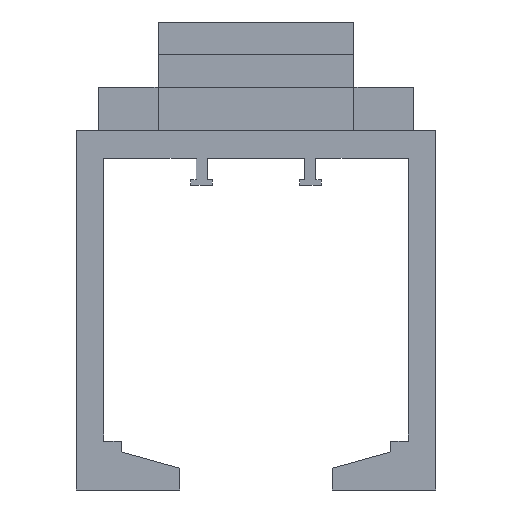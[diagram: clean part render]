
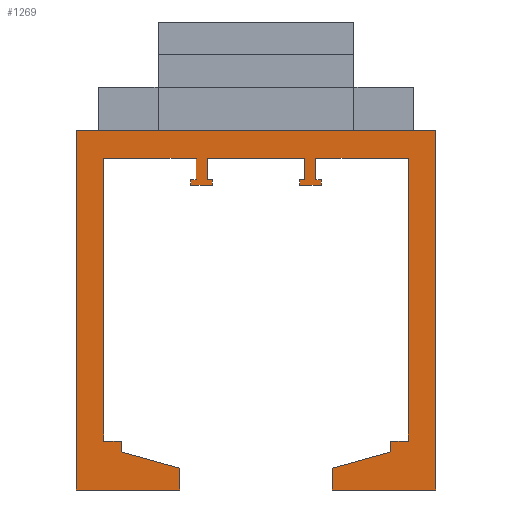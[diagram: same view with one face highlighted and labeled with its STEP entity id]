
A CAD part, left-side view. The second image highlights one B-rep face of the part: STEP entity #1269.
In plain terms, the highlighted planar face has unit normal (-1, 0, 0).
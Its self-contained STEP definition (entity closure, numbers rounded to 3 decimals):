
#1269=ADVANCED_FACE('',(#2284),#2285,.F.);
#2284=FACE_OUTER_BOUND('',#3603,.T.);
#2285=PLANE('',#3604);
#3603=EDGE_LOOP('',(#5079,#5080,#5081,#5082,#5083,#5084,#5085,#5086,#5087,#5088,#5089,#5090,#5091,#5092,#5093,#5094,#5095,#5096,#5097,#5098,#5099,#5100,#5101,#5102,#5103,#5104,#5105,#5106,#5107,#5108,#5109,#5110,#5111,#5112,#5113,#5114));
#3604=AXIS2_PLACEMENT_3D('',#5115,#5116,#5117);
#5079=ORIENTED_EDGE('',*,*,#6402,.T.);
#5080=ORIENTED_EDGE('',*,*,#6418,.T.);
#5081=ORIENTED_EDGE('',*,*,#6419,.T.);
#5082=ORIENTED_EDGE('',*,*,#6410,.T.);
#5083=ORIENTED_EDGE('',*,*,#6157,.F.);
#5084=ORIENTED_EDGE('',*,*,#6204,.T.);
#5085=ORIENTED_EDGE('',*,*,#6181,.T.);
#5086=ORIENTED_EDGE('',*,*,#6186,.F.);
#5087=ORIENTED_EDGE('',*,*,#6175,.F.);
#5088=ORIENTED_EDGE('',*,*,#6098,.T.);
#5089=ORIENTED_EDGE('',*,*,#6420,.T.);
#5090=ORIENTED_EDGE('',*,*,#6421,.T.);
#5091=ORIENTED_EDGE('',*,*,#6422,.T.);
#5092=ORIENTED_EDGE('',*,*,#6423,.T.);
#5093=ORIENTED_EDGE('',*,*,#6424,.T.);
#5094=ORIENTED_EDGE('',*,*,#6425,.T.);
#5095=ORIENTED_EDGE('',*,*,#6426,.F.);
#5096=ORIENTED_EDGE('',*,*,#6427,.T.);
#5097=ORIENTED_EDGE('',*,*,#6428,.T.);
#5098=ORIENTED_EDGE('',*,*,#6429,.T.);
#5099=ORIENTED_EDGE('',*,*,#6430,.T.);
#5100=ORIENTED_EDGE('',*,*,#6431,.T.);
#5101=ORIENTED_EDGE('',*,*,#6432,.T.);
#5102=ORIENTED_EDGE('',*,*,#6433,.T.);
#5103=ORIENTED_EDGE('',*,*,#6434,.F.);
#5104=ORIENTED_EDGE('',*,*,#6413,.F.);
#5105=ORIENTED_EDGE('',*,*,#6435,.F.);
#5106=ORIENTED_EDGE('',*,*,#6436,.T.);
#5107=ORIENTED_EDGE('',*,*,#6397,.T.);
#5108=ORIENTED_EDGE('',*,*,#6437,.F.);
#5109=ORIENTED_EDGE('',*,*,#6438,.F.);
#5110=ORIENTED_EDGE('',*,*,#6439,.F.);
#5111=ORIENTED_EDGE('',*,*,#6440,.T.);
#5112=ORIENTED_EDGE('',*,*,#6441,.T.);
#5113=ORIENTED_EDGE('',*,*,#6442,.T.);
#5114=ORIENTED_EDGE('',*,*,#6405,.T.);
#5115=CARTESIAN_POINT('',(0.0,5.0,-3.5));
#5116=DIRECTION('',(1.0,0.0,0.0));
#5117=DIRECTION('',(0.0,0.0,-1.0));
#6098=EDGE_CURVE('',#7056,#7054,#7057,.T.);
#6157=EDGE_CURVE('',#7144,#7146,#7147,.T.);
#6175=EDGE_CURVE('',#7056,#7174,#7175,.T.);
#6181=EDGE_CURVE('',#7180,#7182,#7184,.T.);
#6186=EDGE_CURVE('',#7174,#7182,#7191,.T.);
#6204=EDGE_CURVE('',#7144,#7180,#7213,.T.);
#6397=EDGE_CURVE('',#7497,#7495,#7498,.T.);
#6402=EDGE_CURVE('',#7506,#7504,#7507,.T.);
#6405=EDGE_CURVE('',#7510,#7506,#7511,.T.);
#6410=EDGE_CURVE('',#7518,#7146,#7519,.T.);
#6413=EDGE_CURVE('',#7522,#7523,#7524,.T.);
#6418=EDGE_CURVE('',#7504,#7531,#7532,.T.);
#6419=EDGE_CURVE('',#7531,#7518,#7533,.T.);
#6420=EDGE_CURVE('',#7054,#7534,#7535,.T.);
#6421=EDGE_CURVE('',#7534,#7536,#7537,.T.);
#6422=EDGE_CURVE('',#7536,#7538,#7539,.T.);
#6423=EDGE_CURVE('',#7538,#7540,#7541,.T.);
#6424=EDGE_CURVE('',#7540,#7542,#7543,.T.);
#6425=EDGE_CURVE('',#7542,#7544,#7545,.T.);
#6426=EDGE_CURVE('',#7546,#7544,#7547,.T.);
#6427=EDGE_CURVE('',#7546,#7548,#7549,.T.);
#6428=EDGE_CURVE('',#7548,#7550,#7551,.T.);
#6429=EDGE_CURVE('',#7550,#7552,#7553,.T.);
#6430=EDGE_CURVE('',#7552,#7554,#7555,.T.);
#6431=EDGE_CURVE('',#7554,#7556,#7557,.T.);
#6432=EDGE_CURVE('',#7556,#7558,#7559,.T.);
#6433=EDGE_CURVE('',#7558,#7560,#7561,.T.);
#6434=EDGE_CURVE('',#7523,#7560,#7562,.T.);
#6435=EDGE_CURVE('',#7563,#7522,#7564,.T.);
#6436=EDGE_CURVE('',#7563,#7497,#7565,.T.);
#6437=EDGE_CURVE('',#7566,#7495,#7567,.T.);
#6438=EDGE_CURVE('',#7568,#7566,#7569,.T.);
#6439=EDGE_CURVE('',#7570,#7568,#7571,.T.);
#6440=EDGE_CURVE('',#7570,#7572,#7573,.T.);
#6441=EDGE_CURVE('',#7572,#7574,#7575,.T.);
#6442=EDGE_CURVE('',#7574,#7510,#7576,.T.);
#7054=VERTEX_POINT('',#7988);
#7056=VERTEX_POINT('',#7991);
#7057=LINE('',#7992,#7993);
#7144=VERTEX_POINT('',#8105);
#7146=VERTEX_POINT('',#8108);
#7147=LINE('',#8109,#8110);
#7174=VERTEX_POINT('',#8145);
#7175=LINE('',#8146,#8147);
#7180=VERTEX_POINT('',#8153);
#7182=VERTEX_POINT('',#8155);
#7184=LINE('',#8157,#8158);
#7191=LINE('',#8166,#8167);
#7213=LINE('',#8195,#8196);
#7495=VERTEX_POINT('',#8615);
#7497=VERTEX_POINT('',#8618);
#7498=LINE('',#8619,#8620);
#7504=VERTEX_POINT('',#8628);
#7506=VERTEX_POINT('',#8631);
#7507=LINE('',#8632,#8633);
#7510=VERTEX_POINT('',#8637);
#7511=LINE('',#8638,#8639);
#7518=VERTEX_POINT('',#8649);
#7519=LINE('',#8650,#8651);
#7522=VERTEX_POINT('',#8655);
#7523=VERTEX_POINT('',#8656);
#7524=LINE('',#8657,#8658);
#7531=VERTEX_POINT('',#8668);
#7532=LINE('',#8669,#8670);
#7533=LINE('',#8671,#8672);
#7534=VERTEX_POINT('',#8673);
#7535=LINE('',#8674,#8675);
#7536=VERTEX_POINT('',#8676);
#7537=LINE('',#8677,#8678);
#7538=VERTEX_POINT('',#8679);
#7539=LINE('',#8680,#8681);
#7540=VERTEX_POINT('',#8682);
#7541=LINE('',#8683,#8684);
#7542=VERTEX_POINT('',#8685);
#7543=LINE('',#8686,#8687);
#7544=VERTEX_POINT('',#8688);
#7545=LINE('',#8689,#8690);
#7546=VERTEX_POINT('',#8691);
#7547=LINE('',#8692,#8693);
#7548=VERTEX_POINT('',#8694);
#7549=LINE('',#8695,#8696);
#7550=VERTEX_POINT('',#8697);
#7551=LINE('',#8698,#8699);
#7552=VERTEX_POINT('',#8700);
#7553=LINE('',#8701,#8702);
#7554=VERTEX_POINT('',#8703);
#7555=LINE('',#8704,#8705);
#7556=VERTEX_POINT('',#8706);
#7557=LINE('',#8707,#8708);
#7558=VERTEX_POINT('',#8709);
#7559=LINE('',#8710,#8711);
#7560=VERTEX_POINT('',#8712);
#7561=LINE('',#8713,#8714);
#7562=LINE('',#8715,#8716);
#7563=VERTEX_POINT('',#8717);
#7564=LINE('',#8718,#8719);
#7565=LINE('',#8720,#8721);
#7566=VERTEX_POINT('',#8722);
#7567=LINE('',#8723,#8724);
#7568=VERTEX_POINT('',#8725);
#7569=LINE('',#8726,#8727);
#7570=VERTEX_POINT('',#8728);
#7571=LINE('',#8729,#8730);
#7572=VERTEX_POINT('',#8731);
#7573=LINE('',#8732,#8733);
#7574=VERTEX_POINT('',#8734);
#7575=LINE('',#8735,#8736);
#7576=LINE('',#8737,#8738);
#7988=CARTESIAN_POINT('',(0.0,5.5,-4.5));
#7991=CARTESIAN_POINT('',(0.,5.5,-2.505));
#7992=CARTESIAN_POINT('',(0.0,5.5,-2.5));
#7993=VECTOR('',#9005,1.0);
#8105=CARTESIAN_POINT('',(0.0,5.5,-2.5));
#8108=CARTESIAN_POINT('',(0.0,14.0,-2.5));
#8109=CARTESIAN_POINT('',(0.0,-14.0,-2.5));
#8110=VECTOR('',#9086,1.0);
#8145=CARTESIAN_POINT('',(0.,5.505,-2.505));
#8146=CARTESIAN_POINT('',(0.,5.5,-2.505));
#8147=VECTOR('',#9107,1.0);
#8153=CARTESIAN_POINT('',(0.0,5.5,-2.503));
#8155=CARTESIAN_POINT('',(0.0,5.505,-2.503));
#8157=CARTESIAN_POINT('',(0.0,5.5,-2.503));
#8158=VECTOR('',#9118,1.0);
#8166=CARTESIAN_POINT('',(0.0,5.505,-2.505));
#8167=VECTOR('',#9126,1.0);
#8195=CARTESIAN_POINT('',(0.0,5.5,-2.5));
#8196=VECTOR('',#9145,1.0);
#8615=CARTESIAN_POINT('',(0.0,-7.0,-31.0));
#8618=CARTESIAN_POINT('',(0.0,-12.375,-29.5));
#8619=CARTESIAN_POINT('',(0.0,-4.993,-31.56));
#8620=VECTOR('',#9284,1.0);
#8628=CARTESIAN_POINT('',(0.0,12.375,-29.5));
#8631=CARTESIAN_POINT('',(0.0,7.0,-31.0));
#8632=CARTESIAN_POINT('',(0.0,12.32,-29.515));
#8633=VECTOR('',#9288,1.0);
#8637=CARTESIAN_POINT('',(0.0,7.0,-33.0));
#8638=CARTESIAN_POINT('',(0.0,7.0,-33.0));
#8639=VECTOR('',#9290,1.0);
#8649=CARTESIAN_POINT('',(0.0,14.0,-28.5));
#8650=CARTESIAN_POINT('',(0.0,14.0,-28.5));
#8651=VECTOR('',#9294,1.0);
#8655=CARTESIAN_POINT('',(0.0,-14.0,-28.5));
#8656=CARTESIAN_POINT('',(0.0,-14.0,-2.5));
#8657=CARTESIAN_POINT('',(0.0,-14.0,-28.5));
#8658=VECTOR('',#9296,1.0);
#8668=CARTESIAN_POINT('',(0.0,12.375,-28.5));
#8669=CARTESIAN_POINT('',(0.0,12.375,-29.26));
#8670=VECTOR('',#9300,1.0);
#8671=CARTESIAN_POINT('',(0.0,12.375,-28.5));
#8672=VECTOR('',#9301,1.0);
#8673=CARTESIAN_POINT('',(0.0,6.0,-4.5));
#8674=CARTESIAN_POINT('',(0.0,4.0,-4.5));
#8675=VECTOR('',#9302,1.0);
#8676=CARTESIAN_POINT('',(0.0,6.0,-5.0));
#8677=CARTESIAN_POINT('',(0.0,6.0,-4.5));
#8678=VECTOR('',#9303,1.0);
#8679=CARTESIAN_POINT('',(0.0,4.0,-5.0));
#8680=CARTESIAN_POINT('',(0.0,6.0,-5.0));
#8681=VECTOR('',#9304,1.0);
#8682=CARTESIAN_POINT('',(0.0,4.0,-4.5));
#8683=CARTESIAN_POINT('',(0.0,4.0,-5.0));
#8684=VECTOR('',#9305,1.0);
#8685=CARTESIAN_POINT('',(0.0,4.5,-4.5));
#8686=CARTESIAN_POINT('',(0.0,4.0,-4.5));
#8687=VECTOR('',#9306,1.0);
#8688=CARTESIAN_POINT('',(0.0,4.5,-2.5));
#8689=CARTESIAN_POINT('',(0.0,4.5,-4.5));
#8690=VECTOR('',#9307,1.0);
#8691=CARTESIAN_POINT('',(0.0,-4.5,-2.5));
#8692=CARTESIAN_POINT('',(0.0,-14.0,-2.5));
#8693=VECTOR('',#9308,1.0);
#8694=CARTESIAN_POINT('',(0.0,-4.5,-4.5));
#8695=CARTESIAN_POINT('',(0.0,-4.5,-2.5));
#8696=VECTOR('',#9309,1.0);
#8697=CARTESIAN_POINT('',(0.0,-4.0,-4.5));
#8698=CARTESIAN_POINT('',(0.0,-6.0,-4.5));
#8699=VECTOR('',#9310,1.0);
#8700=CARTESIAN_POINT('',(0.0,-4.0,-5.0));
#8701=CARTESIAN_POINT('',(0.0,-4.0,-4.5));
#8702=VECTOR('',#9311,1.0);
#8703=CARTESIAN_POINT('',(0.0,-6.0,-5.0));
#8704=CARTESIAN_POINT('',(0.0,-4.0,-5.0));
#8705=VECTOR('',#9312,1.0);
#8706=CARTESIAN_POINT('',(0.0,-6.0,-4.5));
#8707=CARTESIAN_POINT('',(0.0,-6.0,-5.0));
#8708=VECTOR('',#9313,1.0);
#8709=CARTESIAN_POINT('',(0.0,-5.5,-4.5));
#8710=CARTESIAN_POINT('',(0.0,-6.0,-4.5));
#8711=VECTOR('',#9314,1.0);
#8712=CARTESIAN_POINT('',(0.0,-5.5,-2.5));
#8713=CARTESIAN_POINT('',(0.0,-5.5,-4.5));
#8714=VECTOR('',#9315,1.0);
#8715=CARTESIAN_POINT('',(0.0,-14.0,-2.5));
#8716=VECTOR('',#9316,1.0);
#8717=CARTESIAN_POINT('',(0.0,-12.375,-28.5));
#8718=CARTESIAN_POINT('',(0.0,-12.375,-28.5));
#8719=VECTOR('',#9317,1.0);
#8720=CARTESIAN_POINT('',(0.0,-12.375,-16.5));
#8721=VECTOR('',#9318,1.0);
#8722=CARTESIAN_POINT('',(0.0,-7.0,-33.0));
#8723=CARTESIAN_POINT('',(0.0,-7.0,-33.0));
#8724=VECTOR('',#9319,1.0);
#8725=CARTESIAN_POINT('',(0.0,-16.5,-33.0));
#8726=CARTESIAN_POINT('',(0.0,-16.5,-33.0));
#8727=VECTOR('',#9320,1.0);
#8728=CARTESIAN_POINT('',(0.0,-16.5,0.0));
#8729=CARTESIAN_POINT('',(0.0,-16.5,0.0));
#8730=VECTOR('',#9321,1.0);
#8731=CARTESIAN_POINT('',(0.0,16.5,0.0));
#8732=CARTESIAN_POINT('',(0.0,0.0,0.0));
#8733=VECTOR('',#9322,1.0);
#8734=CARTESIAN_POINT('',(0.0,16.5,-33.0));
#8735=CARTESIAN_POINT('',(0.0,16.5,0.0));
#8736=VECTOR('',#9323,1.0);
#8737=CARTESIAN_POINT('',(0.0,16.5,-33.0));
#8738=VECTOR('',#9324,1.0);
#9005=DIRECTION('',(0.0,0.0,-1.0));
#9086=DIRECTION('',(0.0,1.0,0.0));
#9107=DIRECTION('',(0.0,1.0,0.));
#9118=DIRECTION('',(0.0,1.0,0.));
#9126=DIRECTION('',(0.,0.,1.0));
#9145=DIRECTION('',(0.0,0.0,-1.0));
#9284=DIRECTION('',(0.0,0.963,-0.269));
#9288=DIRECTION('',(0.0,0.963,0.269));
#9290=DIRECTION('',(0.0,0.0,1.0));
#9294=DIRECTION('',(0.0,0.0,1.0));
#9296=DIRECTION('',(0.0,0.0,1.0));
#9300=DIRECTION('',(0.0,0.0,1.0));
#9301=DIRECTION('',(0.0,1.0,0.0));
#9302=DIRECTION('',(0.0,1.0,0.0));
#9303=DIRECTION('',(0.0,0.0,-1.0));
#9304=DIRECTION('',(0.0,-1.0,0.0));
#9305=DIRECTION('',(0.0,0.0,1.0));
#9306=DIRECTION('',(0.0,1.0,0.0));
#9307=DIRECTION('',(0.0,0.0,1.0));
#9308=DIRECTION('',(0.0,1.0,0.0));
#9309=DIRECTION('',(0.0,0.0,-1.0));
#9310=DIRECTION('',(0.0,1.0,0.0));
#9311=DIRECTION('',(0.0,0.0,-1.0));
#9312=DIRECTION('',(0.0,-1.0,0.0));
#9313=DIRECTION('',(0.0,0.0,1.0));
#9314=DIRECTION('',(0.0,1.0,0.0));
#9315=DIRECTION('',(0.0,0.0,1.0));
#9316=DIRECTION('',(0.0,1.0,0.0));
#9317=DIRECTION('',(0.0,-1.0,0.0));
#9318=DIRECTION('',(0.0,0.0,-1.0));
#9319=DIRECTION('',(0.0,0.0,1.0));
#9320=DIRECTION('',(0.0,1.0,0.0));
#9321=DIRECTION('',(0.0,0.0,-1.0));
#9322=DIRECTION('',(0.0,1.0,0.0));
#9323=DIRECTION('',(0.0,0.0,-1.0));
#9324=DIRECTION('',(0.0,-1.0,0.0));
